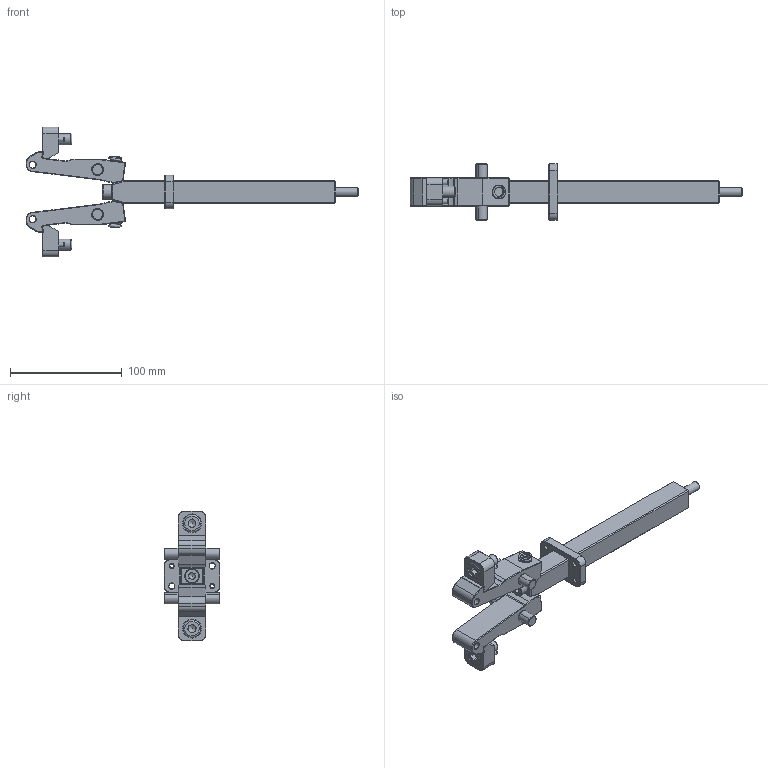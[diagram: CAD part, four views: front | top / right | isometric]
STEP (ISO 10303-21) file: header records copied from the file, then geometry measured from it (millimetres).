
FILE_DESCRIPTION (( 'STEP AP214' ), '1' );
FILE_NAME ('DT10K1.STEP', '2024-02-26T13:48:12', ( '' ), ( '' ), 'SwSTEP 2.0', 'SolidWorks 2023', '' );
FILE_SCHEMA (( 'AUTOMOTIVE_DESIGN' ));
Length unit declared in the file: millimetre
Products named in the file (10): VITE M8x220; DT10_SPINA 10x50; DT10_PIASTRINA GP; DT10 MOLLA; Parallel Pin ISO 8734 - 4 x 10 - A - St_Parallel Pin ISO 8734 - 4 x 10 - A - St; DT10TI; DT10_PERNO QUADRO; M10x20RIB; DT10K1; DT10L
Assembly tree (17 placements, depth 2):
  DT10K1
    DT10L  x2
    DT10_SPINA 10x50  x2
    DT10 MOLLA  x2
    DT10TI  x2
    Parallel Pin ISO 8734 - 4 x 10 - A - St_Parallel Pin ISO 8734 - 4 x 10 - A - St  x4
    M10x20RIB  x2
    DT10_PIASTRINA GP
    DT10_PERNO QUADRO
    VITE M8x220
Bounding box: 296.52 x 50 x 116 mm (x, y, z)
Volume: 176086.5 mm3; surface area: 65688.5 mm2
Topology: 17 solids, 17 shells, 435 faces, 967 edges, 571 vertices
Faces by surface type: plane 227, cone 113, cylinder 86, torus 5, bspline 4
Full cylindrical faces by diameter (mm): 3.6 x2, 4 x10, 5.2 x2, 5.9 x2, 7 x2, 8 x1, 8.2 x1, 9 x2, 10 x3, 10.04 x2, 10.2 x2, 12 x2, 13 x1, 16 x2, 16.2 x2
Entity records: 8987 total; most frequent: CARTESIAN_POINT 2864, DIRECTION 1262, ORIENTED_EDGE 1068, EDGE_CURVE 534, AXIS2_PLACEMENT_3D 459, EDGE_LOOP 354, VERTEX_POINT 348, VECTOR 344
